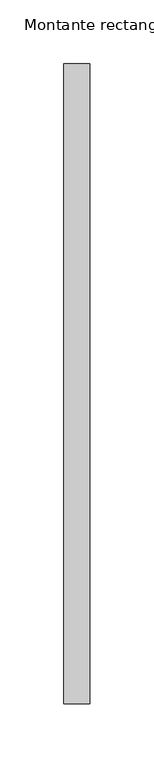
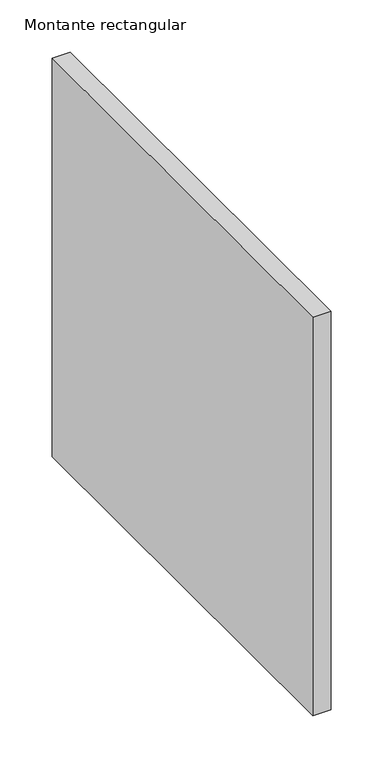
"""IFC4 building model written with IfcOpenShell, lengths in millimetres: member geometry, Montante rectangular : CIRCLES."""

from ifc_helpers import new_model, si_unit, frame, origin, place, context, project, spatial, polyline, outline, extrude, source, transform, mapped, element, save


def montante_rectangular_8bd0d971(model_context):
    return source(origin(), model_context, "Body", "SweptSolid", [
        extrude(outline(polyline([(-20.0, 250.0), (0.0, 250.0), (0.0, -250.0), (-20.0, -250.0), (-20.0, 250.0)])), frame((0.0, 0.0, -466.0), z_axis=(0.0, 0.0, 1.0), x_axis=(1.0, 0.0, 0.0)), (0.0, 0.0, 1.0), 466.0),
    ])


if __name__ == "__main__":
    model = new_model("IFC4")
    model_context = context("Model", 3, world=origin())
    ifc_project = project(units=[si_unit("LENGTHUNIT", "METRE", prefix="MILLI")], contexts=[model_context])
    site = spatial("IfcSite", under=ifc_project)
    building = spatial("IfcBuilding", under=site)
    placement = place(None, origin())
    montante_rectangular_shape = montante_rectangular_8bd0d971(model_context)
    element("IfcMember", 1, ObjectType="Montante rectangular : CIRCLES", at=placement, inside=building, context=model_context, shape_type="MappedRepresentation", body=[
        mapped(montante_rectangular_shape, transform((0.0, 0.0, 0.0), x_axis=(1.0, 0.0, 0.0), y_axis=(0.0, 1.0, 0.0), z_axis=(0.0, 0.0, 1.0))),
    ])
    save(model, "model.ifc")
